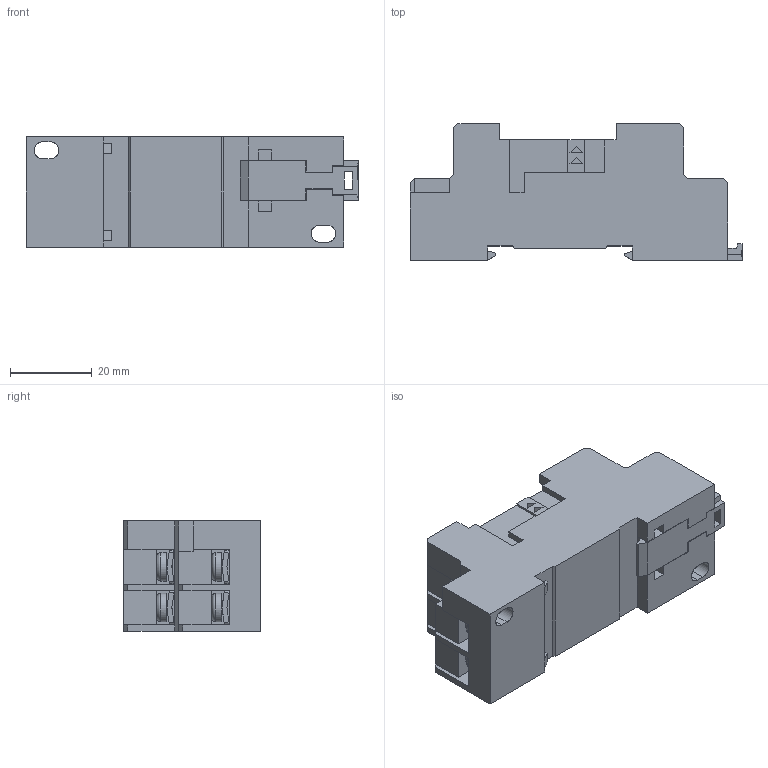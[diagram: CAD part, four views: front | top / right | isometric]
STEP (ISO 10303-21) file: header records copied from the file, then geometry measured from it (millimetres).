
FILE_DESCRIPTION(('STEP AP214'),'2;1');
FILE_NAME('9672_catalogo.stp','2012-01-24T11:50:53',(''),(''),'2007.1.106','THINKDESIGN','');
FILE_SCHEMA(('AUTOMOTIVE_DESIGN'));
Length unit declared in the file: millimetre
Products named in the file (1): None
Bounding box: 81.35 x 33.5 x 27 mm (x, y, z)
Surface area: 19313.9 mm2 (no closed solid volume)
Topology: 0 solids, 0 shells, 515 faces, 2964 edges, 2964 vertices
Faces by surface type: plane 463, cylinder 44, bspline 8
Full cylindrical faces by diameter (mm): 3.5 x8, 5 x8, 7 x8
Entity records: 29456 total; most frequent: CARTESIAN_POINT 7963, DIRECTION 3778, COMPOSITE_CURVE_SEGMENT 2996, TRIMMED_CURVE 2620, VECTOR 2476, LINE 2476, AXIS2_PLACEMENT_3D 651, OUTER_BOUNDARY_CURVE 515
